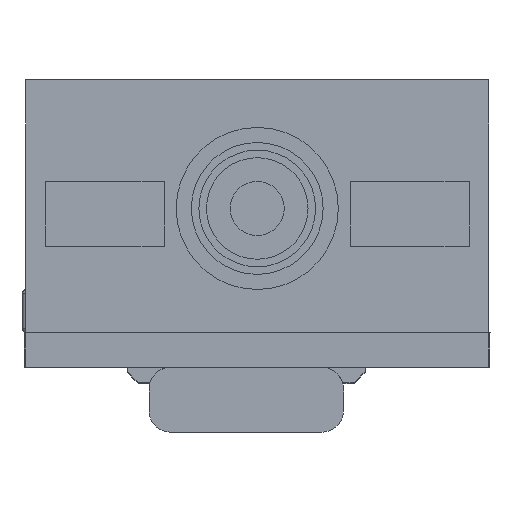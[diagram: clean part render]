
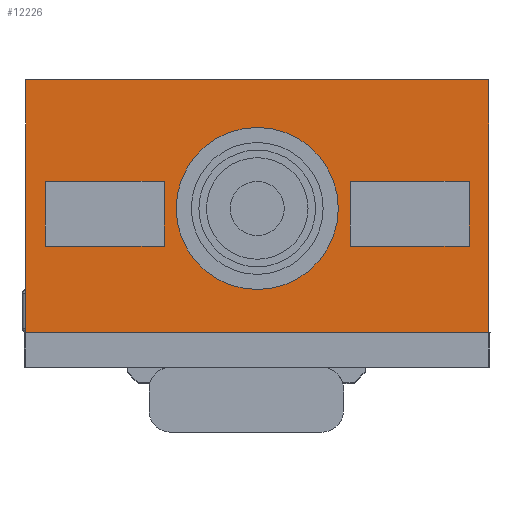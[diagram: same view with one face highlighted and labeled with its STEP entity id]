
A CAD part, left-side view. The second image highlights one B-rep face of the part: STEP entity #12226.
In plain terms, the highlighted planar face has unit normal (-1, 0, 0) as drawn and (0, 1, 0) by its records, which use the part's own axes.
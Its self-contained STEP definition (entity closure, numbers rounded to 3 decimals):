
#8144=FACE_BOUND('',#17041,.T.);
#8145=FACE_BOUND('',#17042,.T.);
#8146=FACE_BOUND('',#17043,.T.);
#8147=FACE_BOUND('',#17044,.T.);
#10058=PLANE('',#49107);
#12226=ADVANCED_FACE('',(#8144,#8145,#8146,#8147),#10058,.T.);
#17041=EDGE_LOOP('',(#28641,#28642,#28643,#28644));
#17042=EDGE_LOOP('',(#28645,#28646,#28647,#28648));
#17043=EDGE_LOOP('',(#28649));
#17044=EDGE_LOOP('',(#28650,#28651,#28652,#28653));
#17868=CIRCLE('',#49106,3.75);
#28641=ORIENTED_EDGE('',*,*,#38015,.F.);
#28642=ORIENTED_EDGE('',*,*,#38013,.F.);
#28643=ORIENTED_EDGE('',*,*,#38011,.F.);
#28644=ORIENTED_EDGE('',*,*,#38008,.F.);
#28645=ORIENTED_EDGE('',*,*,#38007,.F.);
#28646=ORIENTED_EDGE('',*,*,#38005,.F.);
#28647=ORIENTED_EDGE('',*,*,#38003,.F.);
#28648=ORIENTED_EDGE('',*,*,#38000,.F.);
#28649=ORIENTED_EDGE('',*,*,#38016,.F.);
#28650=ORIENTED_EDGE('',*,*,#37968,.T.);
#28651=ORIENTED_EDGE('',*,*,#38017,.F.);
#28652=ORIENTED_EDGE('',*,*,#37978,.F.);
#28653=ORIENTED_EDGE('',*,*,#37999,.T.);
#32483=VERTEX_POINT('',#80140);
#32484=VERTEX_POINT('',#80142);
#32493=VERTEX_POINT('',#80161);
#32494=VERTEX_POINT('',#80163);
#32512=VERTEX_POINT('',#80216);
#32513=VERTEX_POINT('',#80217);
#32514=VERTEX_POINT('',#80222);
#32515=VERTEX_POINT('',#80226);
#32516=VERTEX_POINT('',#80232);
#32517=VERTEX_POINT('',#80233);
#32518=VERTEX_POINT('',#80238);
#32519=VERTEX_POINT('',#80242);
#32520=VERTEX_POINT('',#80248);
#37968=EDGE_CURVE('',#32484,#32483,#42173,.T.);
#37978=EDGE_CURVE('',#32493,#32494,#42183,.T.);
#37999=EDGE_CURVE('',#32493,#32484,#42196,.T.);
#38000=EDGE_CURVE('',#32512,#32513,#42197,.T.);
#38003=EDGE_CURVE('',#32513,#32514,#42200,.T.);
#38005=EDGE_CURVE('',#32514,#32515,#42202,.T.);
#38007=EDGE_CURVE('',#32515,#32512,#42204,.T.);
#38008=EDGE_CURVE('',#32516,#32517,#42205,.T.);
#38011=EDGE_CURVE('',#32517,#32518,#42208,.T.);
#38013=EDGE_CURVE('',#32518,#32519,#42210,.T.);
#38015=EDGE_CURVE('',#32519,#32516,#42212,.T.);
#38016=EDGE_CURVE('',#32520,#32520,#17868,.T.);
#38017=EDGE_CURVE('',#32494,#32483,#42213,.T.);
#42173=LINE('',#80141,#46338);
#42183=LINE('',#80162,#46348);
#42196=LINE('',#80213,#46361);
#42197=LINE('',#80215,#46362);
#42200=LINE('',#80221,#46365);
#42202=LINE('',#80225,#46367);
#42204=LINE('',#80229,#46369);
#42205=LINE('',#80231,#46370);
#42208=LINE('',#80237,#46373);
#42210=LINE('',#80241,#46375);
#42212=LINE('',#80245,#46377);
#42213=LINE('',#80249,#46378);
#46338=VECTOR('',#58397,1.);
#46348=VECTOR('',#58409,1.);
#46361=VECTOR('',#58462,1.);
#46362=VECTOR('',#58465,1.);
#46365=VECTOR('',#58470,1.);
#46367=VECTOR('',#58474,1.);
#46369=VECTOR('',#58478,1.);
#46370=VECTOR('',#58481,1.);
#46373=VECTOR('',#58486,1.);
#46375=VECTOR('',#58490,1.);
#46377=VECTOR('',#58494,1.);
#46378=VECTOR('',#58499,1.);
#49106=AXIS2_PLACEMENT_3D('',#80247,#58497,#58498);
#49107=AXIS2_PLACEMENT_3D('',#80250,#58500,#58501);
#58397=DIRECTION('',(0.,0.,-1.));
#58409=DIRECTION('',(0.,0.,-1.));
#58462=DIRECTION('',(1.,0.,0.));
#58465=DIRECTION('',(0.,0.,-1.));
#58470=DIRECTION('',(-1.,0.,0.));
#58474=DIRECTION('',(0.,0.,1.));
#58478=DIRECTION('',(1.,0.,0.));
#58481=DIRECTION('',(0.,0.,-1.));
#58486=DIRECTION('',(-1.,0.,0.));
#58490=DIRECTION('',(0.,0.,1.));
#58494=DIRECTION('',(1.,0.,0.));
#58497=DIRECTION('',(0.,1.,0.));
#58498=DIRECTION('',(-1.,0.,0.));
#58499=DIRECTION('',(1.,0.,0.));
#58500=DIRECTION('',(0.,1.,0.));
#58501=DIRECTION('',(0.,0.,-1.));
#80140=CARTESIAN_POINT('',(10.706,6.718,-0.2));
#80141=CARTESIAN_POINT('',(10.706,6.718,11.5));
#80142=CARTESIAN_POINT('',(10.706,6.718,11.5));
#80161=CARTESIAN_POINT('',(-10.706,6.718,11.5));
#80162=CARTESIAN_POINT('',(-10.706,6.718,11.5));
#80163=CARTESIAN_POINT('',(-10.706,6.718,-0.2));
#80213=CARTESIAN_POINT('',(-10.706,6.718,11.5));
#80215=CARTESIAN_POINT('',(-4.306,6.718,7.5));
#80216=CARTESIAN_POINT('',(-4.306,6.718,7.5));
#80217=CARTESIAN_POINT('',(-4.306,6.718,4.5));
#80221=CARTESIAN_POINT('',(-4.306,6.718,4.5));
#80222=CARTESIAN_POINT('',(-9.806,6.718,4.5));
#80225=CARTESIAN_POINT('',(-9.806,6.718,4.5));
#80226=CARTESIAN_POINT('',(-9.806,6.718,7.5));
#80229=CARTESIAN_POINT('',(-9.806,6.718,7.5));
#80231=CARTESIAN_POINT('',(9.806,6.718,7.5));
#80232=CARTESIAN_POINT('',(9.806,6.718,7.5));
#80233=CARTESIAN_POINT('',(9.806,6.718,4.5));
#80237=CARTESIAN_POINT('',(9.806,6.718,4.5));
#80238=CARTESIAN_POINT('',(4.306,6.718,4.5));
#80241=CARTESIAN_POINT('',(4.306,6.718,4.5));
#80242=CARTESIAN_POINT('',(4.306,6.718,7.5));
#80245=CARTESIAN_POINT('',(4.306,6.718,7.5));
#80247=CARTESIAN_POINT('',(0.,6.718,5.75));
#80248=CARTESIAN_POINT('',(-3.75,6.718,5.75));
#80249=CARTESIAN_POINT('',(-10.706,6.718,-0.2));
#80250=CARTESIAN_POINT('',(-10.706,6.718,11.5));
